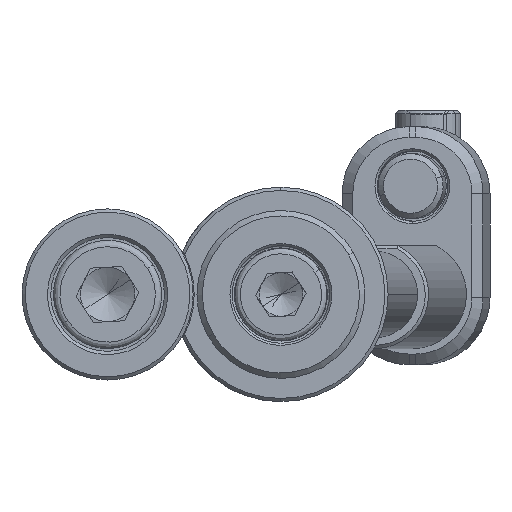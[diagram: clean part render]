
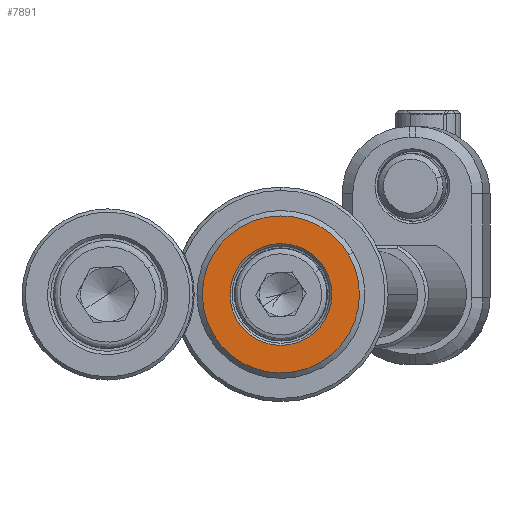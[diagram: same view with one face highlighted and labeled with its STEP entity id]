
A CAD part, front view. The second image highlights one B-rep face of the part: STEP entity #7891.
In plain terms, the highlighted planar face has unit normal (0, -1, 0).
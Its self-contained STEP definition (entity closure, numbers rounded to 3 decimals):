
#86 = DIRECTION ( 'NONE',  ( 0., 1., 0. ) ) ;
#808 = FACE_BOUND ( 'NONE', #8689, .T. ) ;
#891 = DIRECTION ( 'NONE',  ( -0.865, 0., -0.503 ) ) ;
#1178 = VERTEX_POINT ( 'NONE', #9141 ) ;
#2071 = DIRECTION ( 'NONE',  ( 0., -1., 0. ) ) ;
#2132 = DIRECTION ( 'NONE',  ( -0.865, 0., -0.503 ) ) ;
#2153 = CIRCLE ( 'NONE', #7642, 4.7 ) ;
#2303 = EDGE_CURVE ( 'NONE', #5488, #1178, #7519, .T. ) ;
#2388 = CARTESIAN_POINT ( 'NONE',  ( 4.063, -4., 2.362 ) ) ;
#2439 = AXIS2_PLACEMENT_3D ( 'NONE', #6781, #13332, #3482 ) ;
#3315 = ORIENTED_EDGE ( 'NONE', *, *, #2303, .T. ) ;
#3409 = AXIS2_PLACEMENT_3D ( 'NONE', #3904, #8256, #13962 ) ;
#3482 = DIRECTION ( 'NONE',  ( -0.865, 0., -0.503 ) ) ;
#3894 = VERTEX_POINT ( 'NONE', #6989 ) ;
#3904 = CARTESIAN_POINT ( 'NONE',  ( 0., -4., 0. ) ) ;
#4286 = ORIENTED_EDGE ( 'NONE', *, *, #13945, .T. ) ;
#5182 = FACE_OUTER_BOUND ( 'NONE', #7090, .T. ) ;
#5488 = VERTEX_POINT ( 'NONE', #8733 ) ;
#6433 = EDGE_CURVE ( 'NONE', #3894, #10417, #14153, .T. ) ;
#6781 = CARTESIAN_POINT ( 'NONE',  ( 0., -4., 0. ) ) ;
#6989 = CARTESIAN_POINT ( 'NONE',  ( -4.063, -4., -2.362 ) ) ;
#7090 = EDGE_LOOP ( 'NONE', ( #3315, #4286 ) ) ;
#7519 = CIRCLE ( 'NONE', #3409, 7.25 ) ;
#7642 = AXIS2_PLACEMENT_3D ( 'NONE', #11960, #12960, #13106 ) ;
#7891 = ADVANCED_FACE ( 'NONE', ( #808, #5182 ), #13950, .F. ) ;
#8256 = DIRECTION ( 'NONE',  ( 0., -1., 0. ) ) ;
#8585 = CARTESIAN_POINT ( 'NONE',  ( 0., -4., 0. ) ) ;
#8689 = EDGE_LOOP ( 'NONE', ( #9873, #11472 ) ) ;
#8733 = CARTESIAN_POINT ( 'NONE',  ( -6.268, -4., -3.643 ) ) ;
#9141 = CARTESIAN_POINT ( 'NONE',  ( 6.268, -4., 3.643 ) ) ;
#9873 = ORIENTED_EDGE ( 'NONE', *, *, #10617, .T. ) ;
#9899 = AXIS2_PLACEMENT_3D ( 'NONE', #8585, #2071, #2132 ) ;
#10417 = VERTEX_POINT ( 'NONE', #2388 ) ;
#10617 = EDGE_CURVE ( 'NONE', #10417, #3894, #2153, .T. ) ;
#11105 = CIRCLE ( 'NONE', #9899, 7.25 ) ;
#11472 = ORIENTED_EDGE ( 'NONE', *, *, #6433, .T. ) ;
#11960 = CARTESIAN_POINT ( 'NONE',  ( 0., -4., 0. ) ) ;
#12960 = DIRECTION ( 'NONE',  ( 0., 1., 0. ) ) ;
#13106 = DIRECTION ( 'NONE',  ( -0.865, 0., -0.503 ) ) ;
#13240 = AXIS2_PLACEMENT_3D ( 'NONE', #14083, #86, #891 ) ;
#13332 = DIRECTION ( 'NONE',  ( 0., 1., 0. ) ) ;
#13945 = EDGE_CURVE ( 'NONE', #1178, #5488, #11105, .T. ) ;
#13950 = PLANE ( 'NONE',  #13240 ) ;
#13962 = DIRECTION ( 'NONE',  ( -0.865, 0., -0.503 ) ) ;
#14083 = CARTESIAN_POINT ( 'NONE',  ( 2.261, -4., -3.891 ) ) ;
#14153 = CIRCLE ( 'NONE', #2439, 4.7 ) ;
